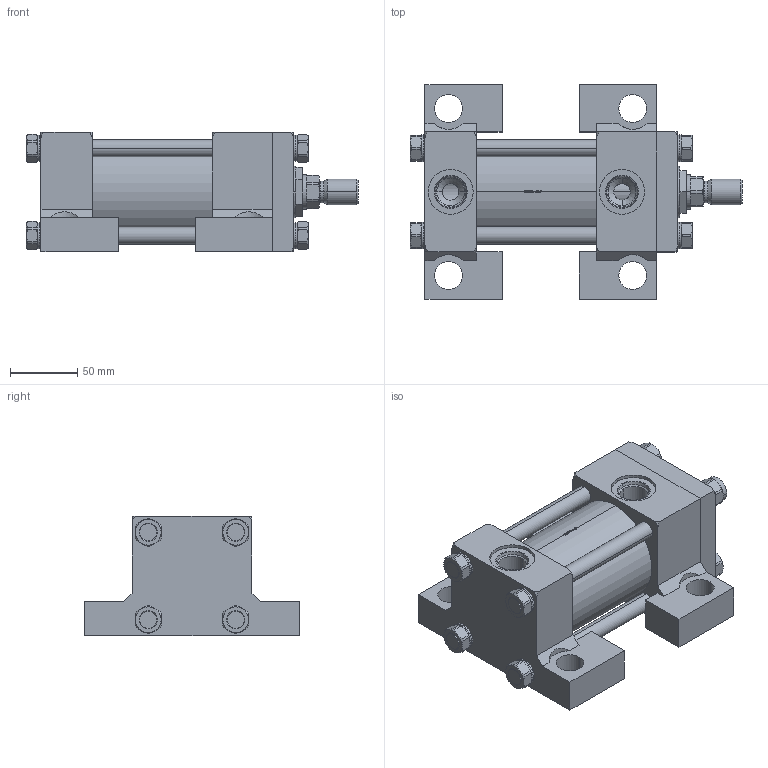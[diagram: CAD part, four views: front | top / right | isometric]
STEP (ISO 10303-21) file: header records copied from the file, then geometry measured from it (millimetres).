
FILE_DESCRIPTION (( 'STEP AP214' ), '1' );
FILE_NAME ('2.50C2HHNAT114A2.000.step', '2026-03-26T21:12:19', ( '' ), ( '' ), 'SwSTEP 2.0', 'SolidWorks 2023', '' );
FILE_SCHEMA (( 'AUTOMOTIVE_DESIGN' ));
Length unit declared in the file: inch
Products named in the file (1): 2.50C2HHNAT114A2.000
Bounding box: 246.06 x 158.75 x 88.9 mm (x, y, z)
Volume: 1258142.3 mm3; surface area: 274833.3 mm2
Topology: 46 solids, 46 shells, 1233 faces, 3172 edges, 2040 vertices
Faces by surface type: plane 799, cylinder 225, cone 163, bspline 38, torus 8
Entity records: 55648 total; most frequent: CARTESIAN_POINT 10959, ORIENTED_EDGE 6344, DIRECTION 5184, EDGE_CURVE 3172, VERTEX_POINT 2040, AXIS2_PLACEMENT_3D 1754, VECTOR 1676, LINE 1676
